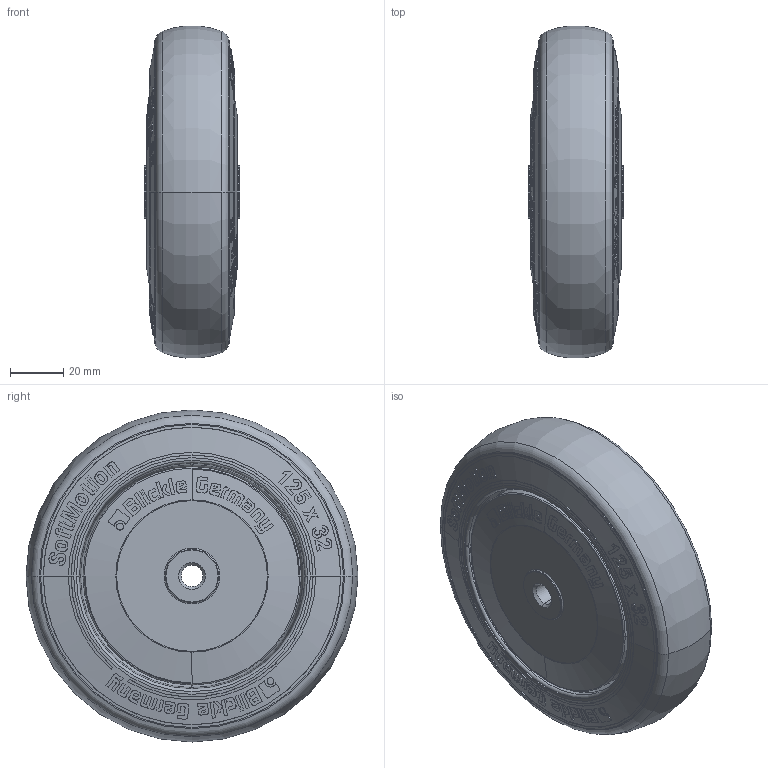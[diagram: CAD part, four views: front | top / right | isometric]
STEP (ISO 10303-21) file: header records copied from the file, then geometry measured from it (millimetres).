
FILE_DESCRIPTION (( 'STEP AP214' ), '1' );
FILE_NAME ('LKRA-POES_127K-FI-SG-FK_921806-214.step', '2022-01-05T14:12:52', ( '' ), ( '' ), 'SwSTEP 2.0', 'SolidWorks 2018', '' );
FILE_SCHEMA (( 'AUTOMOTIVE_DESIGN' ));
Length unit declared in the file: millimetre
Products named in the file (5): POES_3D_G16_POES_127_8K-SG-FK_921613; LKRA-POES_127K-FI-SG-FK_921806-214; POES_127_8K-SG-FK_G16_3D; GH-LKRA-125x35-057-13-FI_8x36_G16_3D; GH-LKRA_050-125_GH-LKRA-125x35-057-13-FI_8x36
Assembly tree (4 placements, depth 3):
  LKRA-POES_127K-FI-SG-FK_921806-214
    GH-LKRA_050-125_GH-LKRA-125x35-057-13-FI_8x36
      GH-LKRA-125x35-057-13-FI_8x36_G16_3D
    POES_3D_G16_POES_127_8K-SG-FK_921613
      POES_127_8K-SG-FK_G16_3D
Bounding box: 36 x 124.83 x 124.83 mm (x, y, z)
Volume: 245949.3 mm3; surface area: 81087.9 mm2
Topology: 1 solids, 7 shells, 2525 faces, 6793 edges, 4476 vertices
Faces by surface type: plane 1190, bspline 944, cone 246, cylinder 74, torus 71
Entity records: 199286 total; most frequent: CARTESIAN_POINT 78890, ORIENTED_EDGE 24570, DIRECTION 14836, EDGE_CURVE 12285, VERTEX_POINT 7954, VECTOR 5942, LINE 5942, EDGE_LOOP 4955
